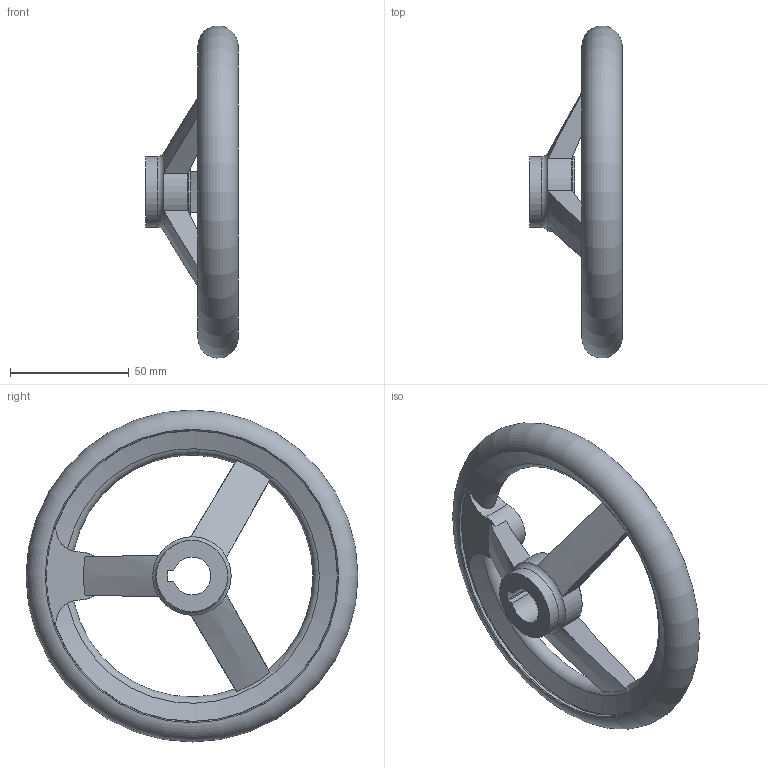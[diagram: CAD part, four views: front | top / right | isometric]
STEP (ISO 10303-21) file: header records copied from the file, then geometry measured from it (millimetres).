
FILE_DESCRIPTION( ( 'STEP AP203' ), '1' );
FILE_NAME( 'C:/Temp/Ganter_Step_05_03_2020/data/1_3/din_950/din_950_k/din_950_k_a/Handwheel DIN 950-GG-140-K16-A.stp', '2020-03-05T10:30:33', ( 'License CC BY-ND 4.0' ), ( 'CADENAS' ), ' ', 'PARTsolutions', ' ' );
FILE_SCHEMA( ( 'CONFIG_CONTROL_DESIGN' ) );
Length unit declared in the file: millimetre
Products named in the file (1): _Handwheel DIN 950-GG-140-K16-A
Bounding box: 39 x 139.96 x 139.96 mm (x, y, z)
Volume: 109602 mm3; surface area: 31439.4 mm2
Topology: 1 solids, 1 shells, 42 faces, 123 edges, 79 vertices
Faces by surface type: cylinder 13, plane 13, torus 10, cone 6
Full cylindrical faces by diameter (mm): 30 x2, 123 x2
Entity records: 1700 total; most frequent: CARTESIAN_POINT 631, ORIENTED_EDGE 214, DIRECTION 202, EDGE_CURVE 107, AXIS2_PLACEMENT_3D 89, VERTEX_POINT 76, EDGE_LOOP 58, FACE_OUTER_BOUND 53
